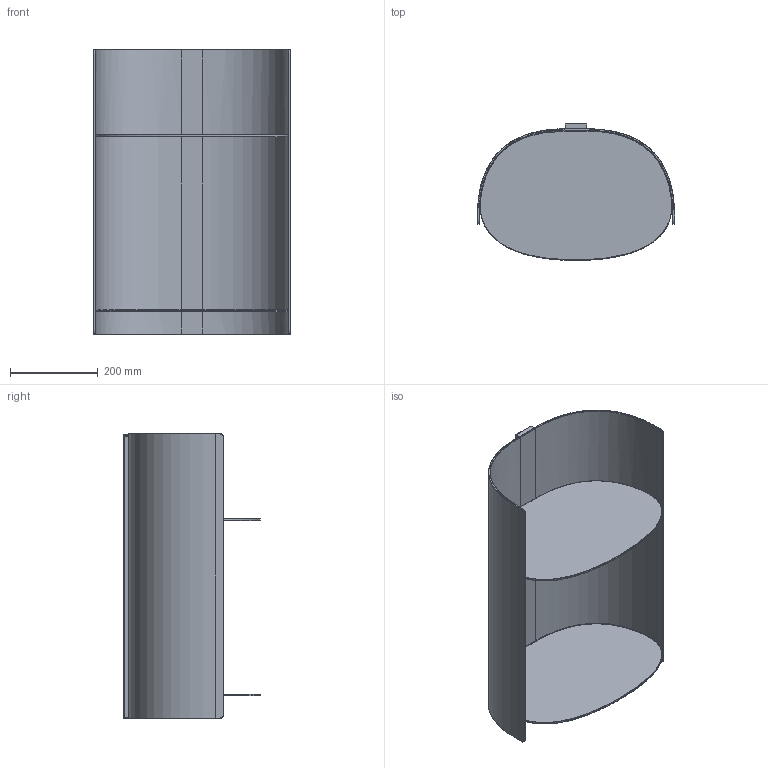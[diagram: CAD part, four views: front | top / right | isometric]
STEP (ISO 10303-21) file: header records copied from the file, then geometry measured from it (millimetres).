
FILE_DESCRIPTION(/* description */ (''),/* implementation_level */ '2;1');
FILE_NAME(/* name */ '202207_Pulpo_Comoshelf_small',/* time_stamp */ '2022-07-05T09:56:55+02:00',/* author */ (''),/* organization */ (''),/* preprocessor_version */ 'ST-DEVELOPER v16.5',/* originating_system */ 'Rhino 7.19',/* authorisation */ '');
FILE_SCHEMA (('CONFIG_CONTROL_DESIGN'));
Length unit declared in the file: millimetre
Products named in the file (1): Document
Bounding box: 450 x 311.97 x 650 mm (x, y, z)
Volume: 2948396.3 mm3; surface area: 1481800.9 mm2
Topology: 5 solids, 5 shells, 127 faces, 279 edges, 162 vertices
Faces by surface type: cylinder 43, bspline 42, plane 42
Entity records: 8358 total; most frequent: CARTESIAN_POINT 6503, ORIENTED_EDGE 558, EDGE_CURVE 279, VERTEX_POINT 162, EDGE_LOOP 131, ADVANCED_FACE 127, FACE_OUTER_BOUND 127, B_SPLINE_CURVE_WITH_KNOTS 104
